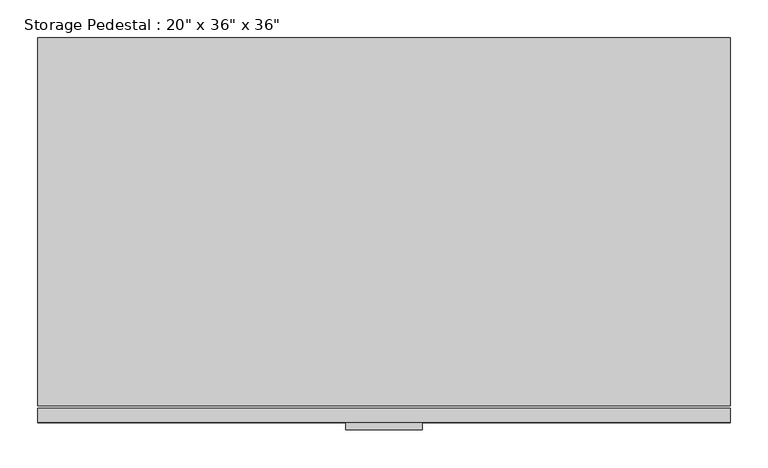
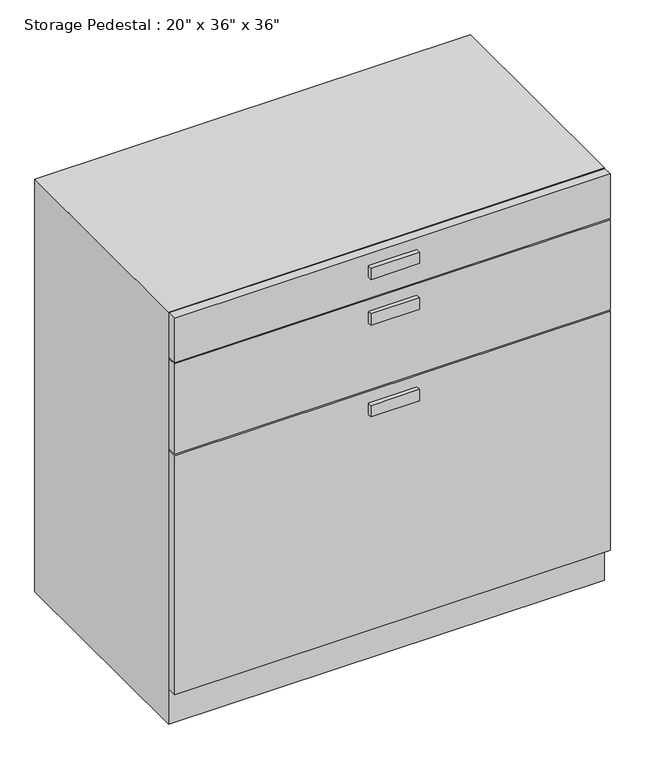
"""IFC4 building model written with IfcOpenShell, lengths in millimetres: furniture geometry."""

from ifc_helpers import new_model, si_unit, frame, origin, origin_with_axes, place, context, project, spatial, polyline, outline, extrude, source, transform, mapped, element, save


def furniture_e1dba61b(model_context):
    return source(origin(), model_context, "Body", "SweptSolid", [
        extrude(outline(polyline([(277.1774861, -1188.3183761), (-637.2225139, -1188.3183761), (-637.2225139, -1169.2683761), (277.1774861, -1169.2683761), (277.1774861, -1188.3183761)])), frame((0.0, 0.0, 79.375), z_axis=(0.0, 0.0, 1.0), x_axis=(1.0, 0.0, 0.0)), (0.0, 0.0, 1.0), 530.225),
        extrude(outline(polyline([(277.1774861, -1188.3183761), (-637.2225139, -1188.3183761), (-637.2225139, -1169.2683761), (277.1774861, -1169.2683761), (277.1774861, -1188.3183761)])), frame((0.0, 0.0, 612.775), z_axis=(0.0, 0.0, 1.0), x_axis=(1.0, 0.0, 0.0)), (0.0, 0.0, 1.0), 200.025),
        extrude(outline(polyline([(277.1774861, -1188.3183761), (-637.2225139, -1188.3183761), (-637.2225139, -1169.2683761), (277.1774861, -1169.2683761), (277.1774861, -1188.3183761)])), frame((0.0, 0.0, 815.975), z_axis=(0.0, 0.0, 1.0), x_axis=(1.0, 0.0, 0.0)), (0.0, 0.0, 1.0), 98.425),
        extrude(outline(polyline([(277.1774861, -680.3183761), (277.1774861, -1166.0933761), (-637.2225139, -1166.0933761), (-637.2225139, -680.3183761), (277.1774861, -680.3183761)])), origin_with_axes(), (0.0, 0.0, 1.0), 914.4),
        extrude(outline(polyline([(-129.2225139, -1197.8433761), (-230.8225139, -1197.8433761), (-230.8225139, -1188.3183761), (-129.2225139, -1188.3183761), (-129.2225139, -1197.8433761)])), frame((0.0, 0.0, 863.6), z_axis=(0.0, 0.0, 1.0), x_axis=(1.0, 0.0, 0.0)), (0.0, 0.0, 1.0), 25.4),
        extrude(outline(polyline([(-129.2225139, -1197.8433761), (-230.8225139, -1197.8433761), (-230.8225139, -1188.3183761), (-129.2225139, -1188.3183761), (-129.2225139, -1197.8433761)])), frame((0.0, 0.0, 762.0), z_axis=(0.0, 0.0, 1.0), x_axis=(1.0, 0.0, 0.0)), (0.0, 0.0, 1.0), 25.4),
        extrude(outline(polyline([(-129.2225139, -1197.8433761), (-230.8225139, -1197.8433761), (-230.8225139, -1188.3183761), (-129.2225139, -1188.3183761), (-129.2225139, -1197.8433761)])), frame((0.0, 0.0, 558.8), z_axis=(0.0, 0.0, 1.0), x_axis=(1.0, 0.0, 0.0)), (0.0, 0.0, 1.0), 25.4),
    ])


if __name__ == "__main__":
    model = new_model("IFC4")
    model_context = context("Model", 3, world=origin())
    ifc_project = project(units=[si_unit("LENGTHUNIT", "METRE", prefix="MILLI")], contexts=[model_context])
    site = spatial("IfcSite", under=ifc_project)
    building = spatial("IfcBuilding", under=site)
    placement = place(None, origin())
    furniture_shape = furniture_e1dba61b(model_context)
    element("IfcFurniture", 1, ObjectType="Storage Pedestal : 20\" x 36\" x 36\"", at=placement, inside=building, context=model_context, shape_type="MappedRepresentation", body=[
        mapped(furniture_shape, transform((0.0, 0.0, 0.0), x_axis=(1.0, 0.0, 0.0), y_axis=(0.0, 1.0, 0.0), z_axis=(0.0, 0.0, 1.0))),
    ])
    save(model, "model.ifc")
